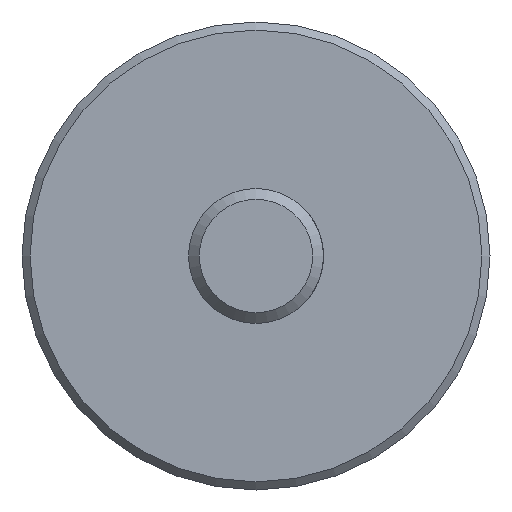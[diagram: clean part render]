
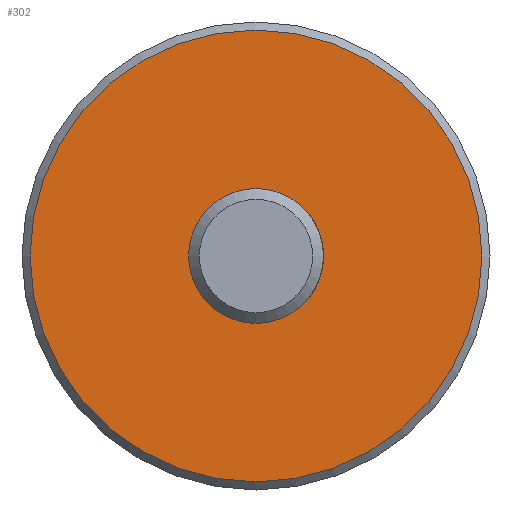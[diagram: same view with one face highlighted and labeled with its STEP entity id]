
A CAD part, front view. The second image highlights one B-rep face of the part: STEP entity #302.
In plain terms, the highlighted planar face has unit normal (0, -1, 0).
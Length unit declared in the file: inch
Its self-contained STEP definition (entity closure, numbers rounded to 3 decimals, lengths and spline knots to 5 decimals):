
#3 = AXIS2_PLACEMENT_3D ( 'NONE', #456, #575, #360 ) ;
#44 = DIRECTION ( 'NONE',  ( 0., 1., 0. ) ) ;
#48 = VERTEX_POINT ( 'NONE', #453 ) ;
#88 = FACE_BOUND ( 'NONE', #459, .T. ) ;
#90 = CARTESIAN_POINT ( 'NONE',  ( 0.375, 3.35, 0. ) ) ;
#92 = CIRCLE ( 'NONE', #422, 0.375 ) ;
#123 = VERTEX_POINT ( 'NONE', #468 ) ;
#189 = DIRECTION ( 'NONE',  ( 0., 0., 1. ) ) ;
#221 = FACE_OUTER_BOUND ( 'NONE', #249, .T. ) ;
#234 = EDGE_CURVE ( 'NONE', #123, #123, #92, .T. ) ;
#241 = AXIS2_PLACEMENT_3D ( 'NONE', #90, #44, #538 ) ;
#249 = EDGE_LOOP ( 'NONE', ( #347 ) ) ;
#294 = ORIENTED_EDGE ( 'NONE', *, *, #234, .T. ) ;
#295 = EDGE_CURVE ( 'NONE', #48, #48, #411, .T. ) ;
#302 = ADVANCED_FACE ( 'NONE', ( #221, #88 ), #452, .F. ) ;
#323 = CARTESIAN_POINT ( 'NONE',  ( 0., 3.35, 0. ) ) ;
#347 = ORIENTED_EDGE ( 'NONE', *, *, #295, .F. ) ;
#360 = DIRECTION ( 'NONE',  ( 0., 0., 1. ) ) ;
#411 = CIRCLE ( 'NONE', #3, 1.255 ) ;
#422 = AXIS2_PLACEMENT_3D ( 'NONE', #323, #572, #189 ) ;
#452 = PLANE ( 'NONE',  #241 ) ;
#453 = CARTESIAN_POINT ( 'NONE',  ( 0., 3.35, 1.255 ) ) ;
#456 = CARTESIAN_POINT ( 'NONE',  ( 0., 3.35, 0. ) ) ;
#459 = EDGE_LOOP ( 'NONE', ( #294 ) ) ;
#468 = CARTESIAN_POINT ( 'NONE',  ( 0., 3.35, 0.375 ) ) ;
#538 = DIRECTION ( 'NONE',  ( 0., 0., 1. ) ) ;
#572 = DIRECTION ( 'NONE',  ( 0., 1., 0. ) ) ;
#575 = DIRECTION ( 'NONE',  ( 0., 1., 0. ) ) ;
